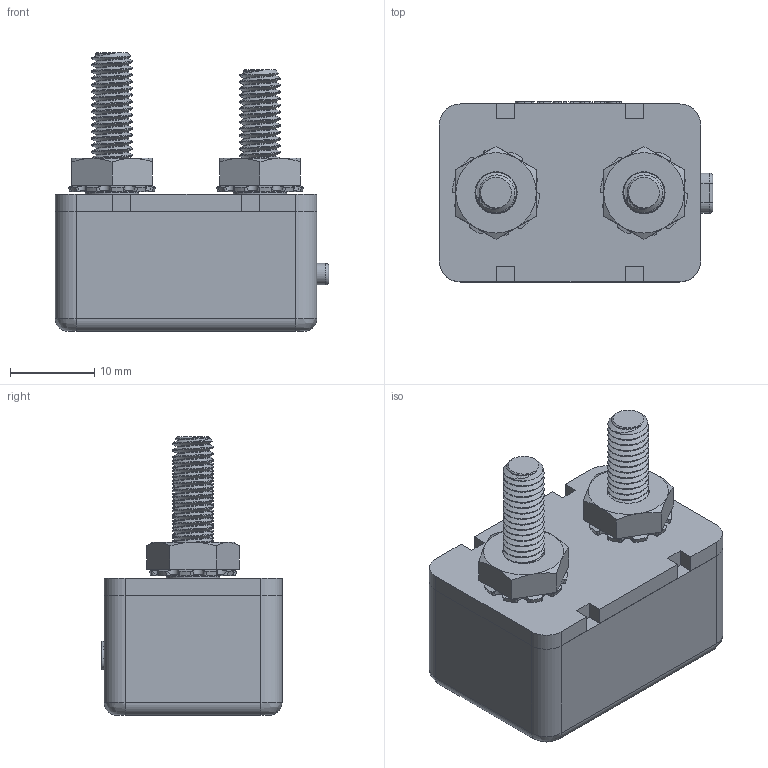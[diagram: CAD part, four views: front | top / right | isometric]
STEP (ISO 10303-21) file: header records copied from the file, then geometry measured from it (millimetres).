
FILE_DESCRIPTION(/* description */ (''),/* implementation_level */ '2;1');
FILE_NAME(/* name */ 'C:\Users\Hani\Desktop\work\MRCBP-N-Gray\MRCBP-N.stp',/* time_stamp */ '2021-08-06T14:33:52-07:00',/* author */ ('Hani'),/* organization */ (''),/* preprocessor_version */ 'ST-DEVELOPER v17',/* originating_system */ 'Autodesk Inventor 2019',/* authorisation */ '');
FILE_SCHEMA (('AUTOMOTIVE_DESIGN { 1 0 10303 214 3 1 1 }'));
Length unit declared in the file: inch
Products named in the file (4): ACBP-V; ACBP-V_1; THREADED ROD; HEX NUT WITH TOOTH WASHER
Assembly tree (5 placements, depth 2):
  ACBP-V
    ACBP-V_1
    THREADED ROD  x2
    HEX NUT WITH TOOTH WASHER  x2
Bounding box: 32.41 x 21.34 x 33.02 mm (x, y, z)
Volume: 11514.8 mm3; surface area: 5998.4 mm2
Topology: 8 solids, 8 shells, 455 faces, 1254 edges, 832 vertices
Faces by surface type: cylinder 160, plane 128, bspline 119, cone 46, torus 2
Full cylindrical faces by diameter (mm): 3.795 x46, 3.967 x6, 4.826 x52, 6.35 x2, 6.413 x2
Entity records: 16327 total; most frequent: CARTESIAN_POINT 8710, ORIENTED_EDGE 1764, DIRECTION 1164, EDGE_CURVE 882, VERTEX_POINT 584, LINE 410, VECTOR 410, AXIS2_PLACEMENT_3D 377
